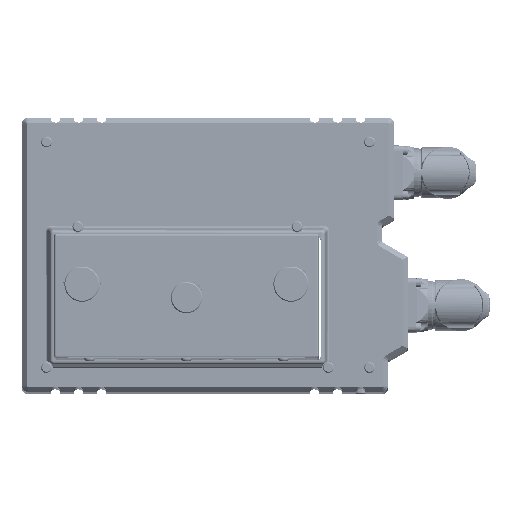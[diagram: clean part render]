
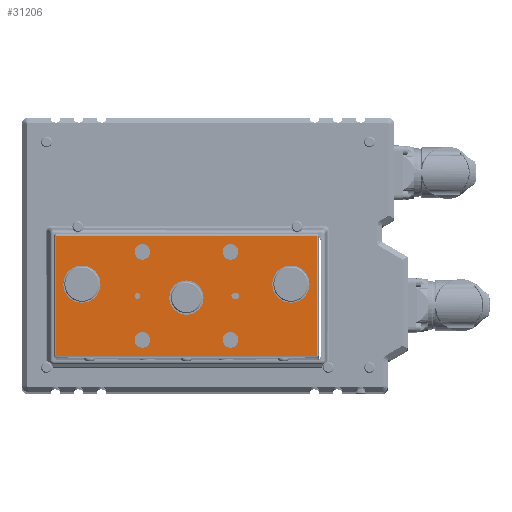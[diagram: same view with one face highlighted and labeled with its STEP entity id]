
A CAD part, top view. The second image highlights one B-rep face of the part: STEP entity #31206.
In plain terms, the highlighted planar face has unit normal (0, 0, 1).
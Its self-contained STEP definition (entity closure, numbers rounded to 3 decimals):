
#30292=CARTESIAN_POINT('',(-22.5,-22.5,19.05));
#30293=DIRECTION('',(0.,0.,-1.));
#30294=DIRECTION('',(-1.,0.,0.));
#30295=AXIS2_PLACEMENT_3D('',#30292,#30293,#30294);
#30297=CARTESIAN_POINT('',(-22.5,-22.5,19.05));
#30298=DIRECTION('',(0.,0.,-1.));
#30299=DIRECTION('',(1.,0.,0.));
#30300=AXIS2_PLACEMENT_3D('',#30297,#30298,#30299);
#30302=CARTESIAN_POINT('',(22.5,-22.5,19.05));
#30303=DIRECTION('',(0.,0.,-1.));
#30304=DIRECTION('',(-1.,0.,0.));
#30305=AXIS2_PLACEMENT_3D('',#30302,#30303,#30304);
#30307=CARTESIAN_POINT('',(22.5,-22.5,19.05));
#30308=DIRECTION('',(0.,0.,-1.));
#30309=DIRECTION('',(1.,0.,0.));
#30310=AXIS2_PLACEMENT_3D('',#30307,#30308,#30309);
#30312=CARTESIAN_POINT('',(-22.5,22.5,19.05));
#30313=DIRECTION('',(0.,0.,-1.));
#30314=DIRECTION('',(-1.,0.,0.));
#30315=AXIS2_PLACEMENT_3D('',#30312,#30313,#30314);
#30317=CARTESIAN_POINT('',(-22.5,22.5,19.05));
#30318=DIRECTION('',(0.,0.,-1.));
#30319=DIRECTION('',(1.,0.,0.));
#30320=AXIS2_PLACEMENT_3D('',#30317,#30318,#30319);
#30322=CARTESIAN_POINT('',(22.5,22.5,19.05));
#30323=DIRECTION('',(0.,0.,-1.));
#30324=DIRECTION('',(-1.,0.,0.));
#30325=AXIS2_PLACEMENT_3D('',#30322,#30323,#30324);
#30327=CARTESIAN_POINT('',(22.5,22.5,19.05));
#30328=DIRECTION('',(0.,0.,-1.));
#30329=DIRECTION('',(1.,0.,0.));
#30330=AXIS2_PLACEMENT_3D('',#30327,#30328,#30329);
#30332=CARTESIAN_POINT('',(53.375,5.995,19.05));
#30333=DIRECTION('',(0.,0.,1.));
#30334=DIRECTION('',(-1.,0.,0.));
#30335=AXIS2_PLACEMENT_3D('',#30332,#30333,#30334);
#30337=CARTESIAN_POINT('',(53.375,5.995,19.05));
#30338=DIRECTION('',(0.,0.,1.));
#30339=DIRECTION('',(1.,0.,0.));
#30340=AXIS2_PLACEMENT_3D('',#30337,#30338,#30339);
#30342=CARTESIAN_POINT('',(-53.375,5.995,19.05));
#30343=DIRECTION('',(0.,0.,1.));
#30344=DIRECTION('',(-1.,0.,0.));
#30345=AXIS2_PLACEMENT_3D('',#30342,#30343,#30344);
#30347=CARTESIAN_POINT('',(-53.375,5.995,19.05));
#30348=DIRECTION('',(0.,0.,1.));
#30349=DIRECTION('',(1.,0.,0.));
#30350=AXIS2_PLACEMENT_3D('',#30347,#30348,#30349);
#30352=DIRECTION('',(0.,1.,0.));
#30353=VECTOR('',#30352,61.);
#30354=CARTESIAN_POINT('',(66.5,-30.5,19.05));
#30355=LINE('',#30354,#30353);
#30356=DIRECTION('',(1.,0.,0.));
#30357=VECTOR('',#30356,133.);
#30358=CARTESIAN_POINT('',(-66.5,-30.5,19.05));
#30359=LINE('',#30358,#30357);
#30360=DIRECTION('',(0.,-1.,0.));
#30361=VECTOR('',#30360,61.);
#30362=CARTESIAN_POINT('',(-66.5,30.5,19.05));
#30363=LINE('',#30362,#30361);
#30364=DIRECTION('',(-1.,0.,0.));
#30365=VECTOR('',#30364,133.);
#30366=CARTESIAN_POINT('',(66.5,30.5,19.05));
#30367=LINE('',#30366,#30365);
#30368=CARTESIAN_POINT('',(0.,-0.881,19.05));
#30369=DIRECTION('',(0.,0.,1.));
#30370=DIRECTION('',(-1.,0.,0.));
#30371=AXIS2_PLACEMENT_3D('',#30368,#30369,#30370);
#30373=CARTESIAN_POINT('',(0.,-0.881,19.05));
#30374=DIRECTION('',(0.,0.,1.));
#30375=DIRECTION('',(1.,0.,0.));
#30376=AXIS2_PLACEMENT_3D('',#30373,#30374,#30375);
#30378=CARTESIAN_POINT('',(-25.,0.,19.05));
#30379=DIRECTION('',(0.,0.,-1.));
#30380=DIRECTION('',(-1.,0.,0.));
#30381=AXIS2_PLACEMENT_3D('',#30378,#30379,#30380);
#30383=CARTESIAN_POINT('',(-25.,0.,19.05));
#30384=DIRECTION('',(0.,0.,-1.));
#30385=DIRECTION('',(1.,0.,0.));
#30386=AXIS2_PLACEMENT_3D('',#30383,#30384,#30385);
#30388=CARTESIAN_POINT('',(24.5,0.,19.05));
#30389=DIRECTION('',(0.,0.,1.));
#30390=DIRECTION('',(0.,1.,0.));
#30391=AXIS2_PLACEMENT_3D('',#30388,#30389,#30390);
#30393=DIRECTION('',(1.,0.,0.));
#30394=VECTOR('',#30393,1.);
#30395=CARTESIAN_POINT('',(24.5,-1.519,19.05));
#30396=LINE('',#30395,#30394);
#30397=CARTESIAN_POINT('',(25.5,0.,19.05));
#30398=DIRECTION('',(0.,0.,1.));
#30399=DIRECTION('',(0.,-1.,0.));
#30400=AXIS2_PLACEMENT_3D('',#30397,#30398,#30399);
#30402=DIRECTION('',(-1.,0.,0.));
#30403=VECTOR('',#30402,1.);
#30404=CARTESIAN_POINT('',(25.5,1.519,19.05));
#30405=LINE('',#30404,#30403);
#30861=CARTESIAN_POINT('',(-26.5,-22.5,19.05));
#30862=CARTESIAN_POINT('',(-18.5,-22.5,19.05));
#30863=VERTEX_POINT('',#30861);
#30864=VERTEX_POINT('',#30862);
#30869=CARTESIAN_POINT('',(18.5,-22.5,19.05));
#30870=CARTESIAN_POINT('',(26.5,-22.5,19.05));
#30871=VERTEX_POINT('',#30869);
#30872=VERTEX_POINT('',#30870);
#30901=CARTESIAN_POINT('',(66.5,-30.5,19.05));
#30902=CARTESIAN_POINT('',(66.5,30.5,19.05));
#30903=VERTEX_POINT('',#30901);
#30904=VERTEX_POINT('',#30902);
#30909=CARTESIAN_POINT('',(-66.5,30.5,19.05));
#30910=VERTEX_POINT('',#30909);
#30915=CARTESIAN_POINT('',(-66.5,-30.5,19.05));
#30916=VERTEX_POINT('',#30915);
#30937=CARTESIAN_POINT('',(43.875,5.995,19.05));
#30938=CARTESIAN_POINT('',(62.875,5.995,19.05));
#30939=VERTEX_POINT('',#30937);
#30940=VERTEX_POINT('',#30938);
#30941=CARTESIAN_POINT('',(-62.875,5.995,19.05));
#30942=CARTESIAN_POINT('',(-43.875,5.995,19.05));
#30943=VERTEX_POINT('',#30941);
#30944=VERTEX_POINT('',#30942);
#30949=CARTESIAN_POINT('',(-26.5,22.5,19.05));
#30950=CARTESIAN_POINT('',(-18.5,22.5,19.05));
#30951=VERTEX_POINT('',#30949);
#30952=VERTEX_POINT('',#30950);
#30957=CARTESIAN_POINT('',(18.5,22.5,19.05));
#30958=CARTESIAN_POINT('',(26.5,22.5,19.05));
#30959=VERTEX_POINT('',#30957);
#30960=VERTEX_POINT('',#30958);
#30997=CARTESIAN_POINT('',(-8.75,-0.881,19.05));
#30998=CARTESIAN_POINT('',(8.75,-0.881,19.05));
#30999=VERTEX_POINT('',#30997);
#31000=VERTEX_POINT('',#30998);
#31005=CARTESIAN_POINT('',(-26.519,0.,19.05));
#31006=CARTESIAN_POINT('',(-23.481,0.,19.05));
#31007=VERTEX_POINT('',#31005);
#31008=VERTEX_POINT('',#31006);
#31017=CARTESIAN_POINT('',(24.5,1.519,19.05));
#31018=CARTESIAN_POINT('',(24.5,-1.519,19.05));
#31019=VERTEX_POINT('',#31017);
#31020=VERTEX_POINT('',#31018);
#31021=CARTESIAN_POINT('',(25.5,-1.519,19.05));
#31022=VERTEX_POINT('',#31021);
#31023=CARTESIAN_POINT('',(25.5,1.519,19.05));
#31024=VERTEX_POINT('',#31023);
#31134=CARTESIAN_POINT('',(0.,0.,19.05));
#31135=DIRECTION('',(0.,0.,1.));
#31136=DIRECTION('',(1.,0.,0.));
#31137=AXIS2_PLACEMENT_3D('',#31134,#31135,#31136);
#31138=PLANE('',#31137);
#31140=ORIENTED_EDGE('',*,*,#31139,.F.);
#31142=ORIENTED_EDGE('',*,*,#31141,.F.);
#31144=ORIENTED_EDGE('',*,*,#31143,.F.);
#31146=ORIENTED_EDGE('',*,*,#31145,.F.);
#31147=EDGE_LOOP('',(#31140,#31142,#31144,#31146));
#31148=FACE_OUTER_BOUND('',#31147,.F.);
#31150=ORIENTED_EDGE('',*,*,#31149,.F.);
#31152=ORIENTED_EDGE('',*,*,#31151,.F.);
#31153=EDGE_LOOP('',(#31150,#31152));
#31154=FACE_BOUND('',#31153,.F.);
#31156=ORIENTED_EDGE('',*,*,#31155,.F.);
#31158=ORIENTED_EDGE('',*,*,#31157,.F.);
#31159=EDGE_LOOP('',(#31156,#31158));
#31160=FACE_BOUND('',#31159,.F.);
#31162=ORIENTED_EDGE('',*,*,#31161,.F.);
#31164=ORIENTED_EDGE('',*,*,#31163,.F.);
#31165=EDGE_LOOP('',(#31162,#31164));
#31166=FACE_BOUND('',#31165,.F.);
#31168=ORIENTED_EDGE('',*,*,#31167,.F.);
#31170=ORIENTED_EDGE('',*,*,#31169,.F.);
#31171=EDGE_LOOP('',(#31168,#31170));
#31172=FACE_BOUND('',#31171,.F.);
#31173=ORIENTED_EDGE('',*,*,#31124,.T.);
#31175=ORIENTED_EDGE('',*,*,#31174,.T.);
#31176=EDGE_LOOP('',(#31173,#31175));
#31177=FACE_BOUND('',#31176,.F.);
#31179=ORIENTED_EDGE('',*,*,#31178,.T.);
#31181=ORIENTED_EDGE('',*,*,#31180,.T.);
#31182=EDGE_LOOP('',(#31179,#31181));
#31183=FACE_BOUND('',#31182,.F.);
#31185=ORIENTED_EDGE('',*,*,#31184,.T.);
#31187=ORIENTED_EDGE('',*,*,#31186,.T.);
#31188=EDGE_LOOP('',(#31185,#31187));
#31189=FACE_BOUND('',#31188,.F.);
#31191=ORIENTED_EDGE('',*,*,#31190,.F.);
#31193=ORIENTED_EDGE('',*,*,#31192,.F.);
#31194=EDGE_LOOP('',(#31191,#31193));
#31195=FACE_BOUND('',#31194,.F.);
#31197=ORIENTED_EDGE('',*,*,#31196,.T.);
#31199=ORIENTED_EDGE('',*,*,#31198,.T.);
#31201=ORIENTED_EDGE('',*,*,#31200,.T.);
#31203=ORIENTED_EDGE('',*,*,#31202,.T.);
#31204=EDGE_LOOP('',(#31197,#31199,#31201,#31203));
#31205=FACE_BOUND('',#31204,.F.);
#31206=ADVANCED_FACE('',(#31148,#31154,#31160,#31166,#31172,#31177,#31183,
#31189,#31195,#31205),#31138,.T.);
#30296=CIRCLE('',#30295,4.);
#30301=CIRCLE('',#30300,4.);
#30306=CIRCLE('',#30305,4.);
#30311=CIRCLE('',#30310,4.);
#30316=CIRCLE('',#30315,4.);
#30321=CIRCLE('',#30320,4.);
#30326=CIRCLE('',#30325,4.);
#30331=CIRCLE('',#30330,4.);
#30336=CIRCLE('',#30335,9.5);
#30341=CIRCLE('',#30340,9.5);
#30346=CIRCLE('',#30345,9.5);
#30351=CIRCLE('',#30350,9.5);
#30372=CIRCLE('',#30371,8.75);
#30377=CIRCLE('',#30376,8.75);
#30382=CIRCLE('',#30381,1.519);
#30387=CIRCLE('',#30386,1.519);
#30392=CIRCLE('',#30391,1.519);
#30401=CIRCLE('',#30400,1.519);
#31124=EDGE_CURVE('',#30939,#30940,#30336,.T.);
#31139=EDGE_CURVE('',#30903,#30904,#30355,.T.);
#31141=EDGE_CURVE('',#30916,#30903,#30359,.T.);
#31143=EDGE_CURVE('',#30910,#30916,#30363,.T.);
#31145=EDGE_CURVE('',#30904,#30910,#30367,.T.);
#31149=EDGE_CURVE('',#30863,#30864,#30296,.T.);
#31151=EDGE_CURVE('',#30864,#30863,#30301,.T.);
#31155=EDGE_CURVE('',#30871,#30872,#30306,.T.);
#31157=EDGE_CURVE('',#30872,#30871,#30311,.T.);
#31161=EDGE_CURVE('',#30951,#30952,#30316,.T.);
#31163=EDGE_CURVE('',#30952,#30951,#30321,.T.);
#31167=EDGE_CURVE('',#30959,#30960,#30326,.T.);
#31169=EDGE_CURVE('',#30960,#30959,#30331,.T.);
#31174=EDGE_CURVE('',#30940,#30939,#30341,.T.);
#31178=EDGE_CURVE('',#30943,#30944,#30346,.T.);
#31180=EDGE_CURVE('',#30944,#30943,#30351,.T.);
#31184=EDGE_CURVE('',#30999,#31000,#30372,.T.);
#31186=EDGE_CURVE('',#31000,#30999,#30377,.T.);
#31190=EDGE_CURVE('',#31007,#31008,#30382,.T.);
#31192=EDGE_CURVE('',#31008,#31007,#30387,.T.);
#31196=EDGE_CURVE('',#31019,#31020,#30392,.T.);
#31198=EDGE_CURVE('',#31020,#31022,#30396,.T.);
#31200=EDGE_CURVE('',#31022,#31024,#30401,.T.);
#31202=EDGE_CURVE('',#31024,#31019,#30405,.T.);
